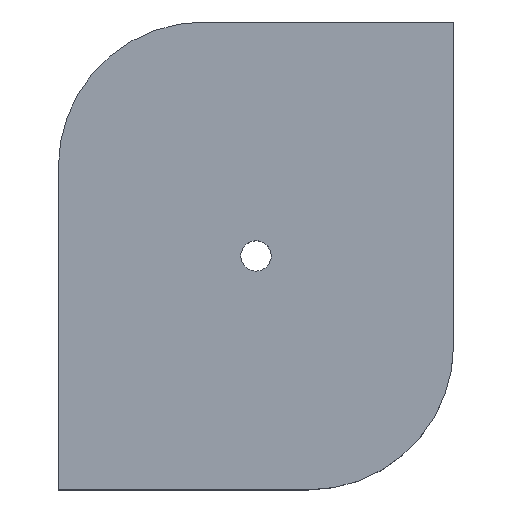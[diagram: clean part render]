
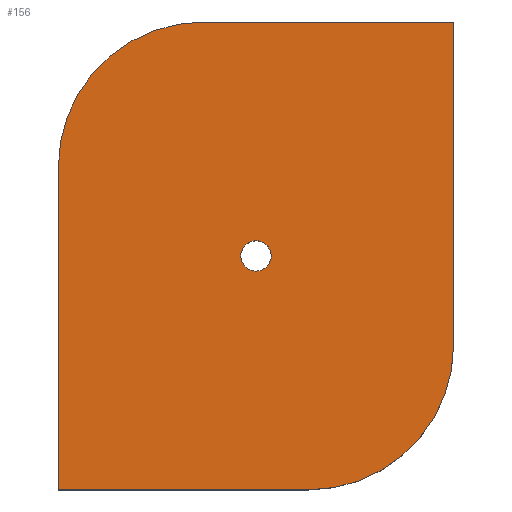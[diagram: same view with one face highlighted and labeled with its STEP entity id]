
A CAD part, top view. The second image highlights one B-rep face of the part: STEP entity #156.
In plain terms, the highlighted planar face has unit normal (0, 0, 1).
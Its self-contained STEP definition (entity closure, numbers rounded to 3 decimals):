
#63=CARTESIAN_POINT('Vertex',(50.825,66.508,24.)) ;
#77=CARTESIAN_POINT('Vertex',(58.175,62.492,24.)) ;
#80=CARTESIAN_POINT('Axis2P3D Location',(54.5,64.5,24.)) ;
#92=CARTESIAN_POINT('Axis2P3D Location',(0.,0.,24.)) ;
#97=CARTESIAN_POINT('Line Origine',(0.,44.5,24.)) ;
#101=CARTESIAN_POINT('Vertex',(0.,89.,24.)) ;
#103=CARTESIAN_POINT('Vertex',(0.,0.,24.)) ;
#106=CARTESIAN_POINT('Line Origine',(34.5,0.,24.)) ;
#110=CARTESIAN_POINT('Vertex',(69.,0.,24.)) ;
#113=CARTESIAN_POINT('Axis2P3D Location',(69.,40.,24.)) ;
#117=CARTESIAN_POINT('Vertex',(109.,40.,24.)) ;
#120=CARTESIAN_POINT('Line Origine',(109.,84.5,24.)) ;
#124=CARTESIAN_POINT('Vertex',(109.,129.,24.)) ;
#127=CARTESIAN_POINT('Line Origine',(74.5,129.,24.)) ;
#131=CARTESIAN_POINT('Vertex',(40.,129.,24.)) ;
#134=CARTESIAN_POINT('Axis2P3D Location',(40.,89.,24.)) ;
#147=CARTESIAN_POINT('Axis2P3D Location',(54.5,64.5,24.)) ;
#81=DIRECTION('Axis2P3D Direction',(0.,-0.,-1.)) ;
#93=DIRECTION('Axis2P3D Direction',(0.,0.,1.)) ;
#94=DIRECTION('Axis2P3D XDirection',(1.,0.,0.)) ;
#98=DIRECTION('Vector Direction',(0.,-1.,0.)) ;
#107=DIRECTION('Vector Direction',(1.,0.,0.)) ;
#114=DIRECTION('Axis2P3D Direction',(0.,0.,1.)) ;
#121=DIRECTION('Vector Direction',(0.,1.,0.)) ;
#128=DIRECTION('Vector Direction',(-1.,0.,0.)) ;
#135=DIRECTION('Axis2P3D Direction',(0.,0.,1.)) ;
#148=DIRECTION('Axis2P3D Direction',(0.,0.,1.)) ;
#82=AXIS2_PLACEMENT_3D('Circle Axis2P3D',#80,#81,$) ;
#95=AXIS2_PLACEMENT_3D('Plane Axis2P3D',#92,#93,#94) ;
#115=AXIS2_PLACEMENT_3D('Circle Axis2P3D',#113,#114,$) ;
#136=AXIS2_PLACEMENT_3D('Circle Axis2P3D',#134,#135,$) ;
#149=AXIS2_PLACEMENT_3D('Circle Axis2P3D',#147,#148,$) ;
#140=ORIENTED_EDGE('',*,*,#105,.T.) ;
#141=ORIENTED_EDGE('',*,*,#112,.T.) ;
#142=ORIENTED_EDGE('',*,*,#119,.F.) ;
#143=ORIENTED_EDGE('',*,*,#126,.T.) ;
#144=ORIENTED_EDGE('',*,*,#133,.T.) ;
#145=ORIENTED_EDGE('',*,*,#138,.F.) ;
#153=ORIENTED_EDGE('',*,*,#151,.F.) ;
#154=ORIENTED_EDGE('',*,*,#84,.F.) ;
#155=FACE_BOUND('',#152,.T.) ;
#99=VECTOR('Line Direction',#98,1.) ;
#108=VECTOR('Line Direction',#107,1.) ;
#122=VECTOR('Line Direction',#121,1.) ;
#129=VECTOR('Line Direction',#128,1.) ;
#156=ADVANCED_FACE('PartBody',(#146,#155),#96,.T.) ;
#83=CIRCLE('generated circle',#82,4.188) ;
#116=CIRCLE('generated circle',#115,40.) ;
#137=CIRCLE('generated circle',#136,40.) ;
#150=CIRCLE('generated circle',#149,4.188) ;
#84=EDGE_CURVE('',#78,#64,#83,.F.) ;
#105=EDGE_CURVE('',#102,#104,#100,.T.) ;
#112=EDGE_CURVE('',#104,#111,#109,.T.) ;
#119=EDGE_CURVE('',#118,#111,#116,.F.) ;
#126=EDGE_CURVE('',#118,#125,#123,.T.) ;
#133=EDGE_CURVE('',#125,#132,#130,.T.) ;
#138=EDGE_CURVE('',#102,#132,#137,.F.) ;
#151=EDGE_CURVE('',#64,#78,#150,.T.) ;
#139=EDGE_LOOP('',(#140,#141,#142,#143,#144,#145)) ;
#152=EDGE_LOOP('',(#153,#154)) ;
#146=FACE_OUTER_BOUND('',#139,.T.) ;
#100=LINE('Line',#97,#99) ;
#109=LINE('Line',#106,#108) ;
#123=LINE('Line',#120,#122) ;
#130=LINE('Line',#127,#129) ;
#96=PLANE('',#95) ;
#64=VERTEX_POINT('',#63) ;
#78=VERTEX_POINT('',#77) ;
#102=VERTEX_POINT('',#101) ;
#104=VERTEX_POINT('',#103) ;
#111=VERTEX_POINT('',#110) ;
#118=VERTEX_POINT('',#117) ;
#125=VERTEX_POINT('',#124) ;
#132=VERTEX_POINT('',#131) ;
